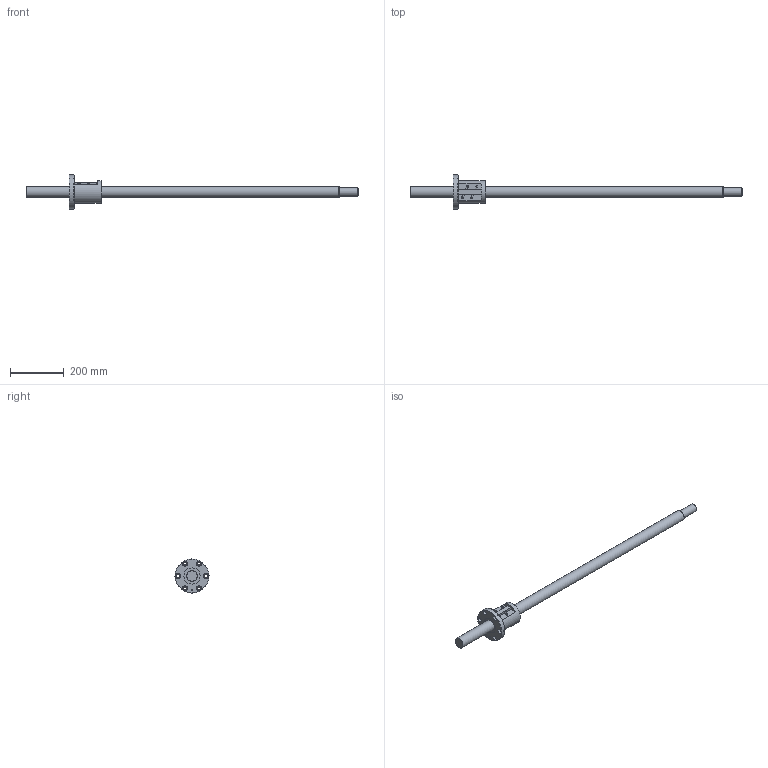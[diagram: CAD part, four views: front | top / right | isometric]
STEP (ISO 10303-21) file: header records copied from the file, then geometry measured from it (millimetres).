
FILE_DESCRIPTION(/* description */ ('STEP AP203'),/* implementation_level */ '2;1');
FILE_NAME(/* name */ 'BNF4012-5RRG1+1230LC5A(00)',/* time_stamp */ '2024-07-15T07:50:16+02:00',/* author */ ('License CC BY-ND 4.0'),/* organization */ ('CADENAS'),/* preprocessor_version */ 'ST-DEVELOPER v19.3',/* originating_system */ 'PARTsolutions',/* authorisation */ ' ');
FILE_SCHEMA (('CONFIG_CONTROL_DESIGN'));
Length unit declared in the file: millimetre
Products named in the file (3): BNF4012-5RRG1+1230LC5A(00); BNF4012-5RRG1+1230LC5A(00)_shaft; BNF 4012-5RR_nut
Assembly tree (2 placements, depth 2):
  BNF4012-5RRG1+1230LC5A(00)
    BNF4012-5RRG1+1230LC5A(00)_shaft
    BNF 4012-5RR_nut
Bounding box: 1230 x 126 x 126 mm (x, y, z)
Volume: 2055023.2 mm3; surface area: 234328.8 mm2
Topology: 2 solids, 2 shells, 68 faces, 155 edges, 101 vertices
Faces by surface type: cylinder 32, plane 24, cone 8, torus 4
Full cylindrical faces by diameter (mm): 4.5 x2, 4.917 x1, 5.598 x4, 11 x6, 17.5 x6, 30.3 x1, 40 x2, 60 x2, 84 x1, 126 x1
Entity records: 1763 total; most frequent: DIRECTION 312, CARTESIAN_POINT 297, ORIENTED_EDGE 202, AXIS2_PLACEMENT_3D 144, EDGE_LOOP 142, FACE_BOUND 142, EDGE_CURVE 101, VERTEX_POINT 87
